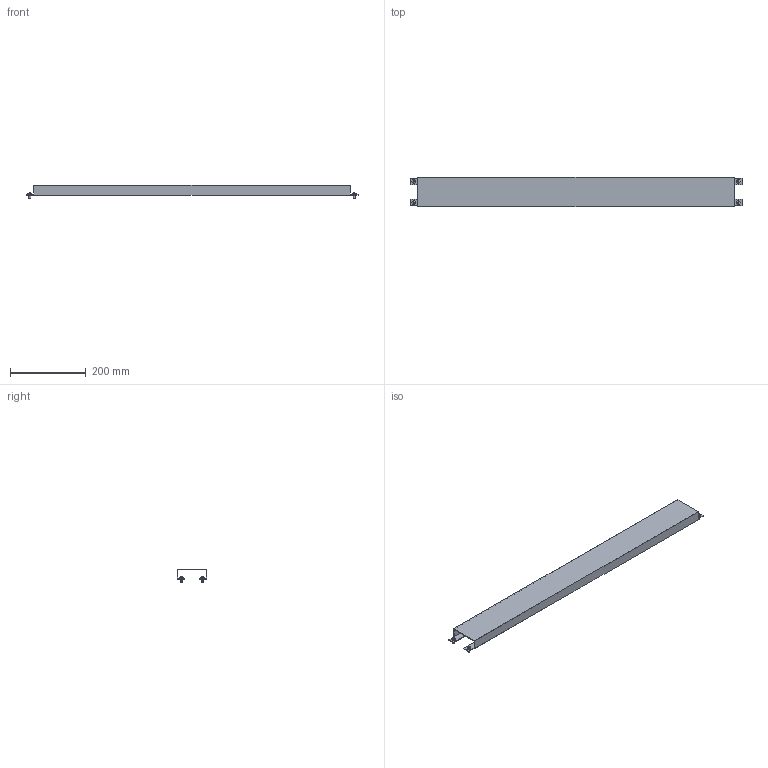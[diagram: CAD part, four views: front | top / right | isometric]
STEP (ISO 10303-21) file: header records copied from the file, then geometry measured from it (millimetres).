
FILE_DESCRIPTION(('Open CASCADE Model'),'2;1');
FILE_NAME('Open CASCADE Shape Model','2025-02-27T09:51:07',('Author'),( 'Open CASCADE'),'Open CASCADE STEP processor 7.8','Open CASCADE 7.8' ,'Unknown');
FILE_SCHEMA(('AUTOMOTIVE_DESIGN { 1 0 10303 214 1 1 1 1 }'));
Length unit declared in the file: millimetre
Products named in the file (3): Compound1; Solid1; Solid2
Assembly tree (5 placements, depth 2):
  Compound1
    Solid1
    Solid2  x4
Bounding box: 875 x 78 x 36 mm (x, y, z)
Volume: 274267.1 mm3; surface area: 278756.2 mm2
Topology: 5 solids, 5 shells, 138 faces, 320 edges, 188 vertices
Faces by surface type: plane 66, cylinder 24, cone 16, torus 16, bspline 8, sphere 8
Entity records: 2246 total; most frequent: CARTESIAN_POINT 559, DIRECTION 342, ORIENTED_EDGE 336, EDGE_CURVE 168, AXIS2_PLACEMENT_3D 114, LINE 114, VECTOR 114, VERTEX_POINT 107
